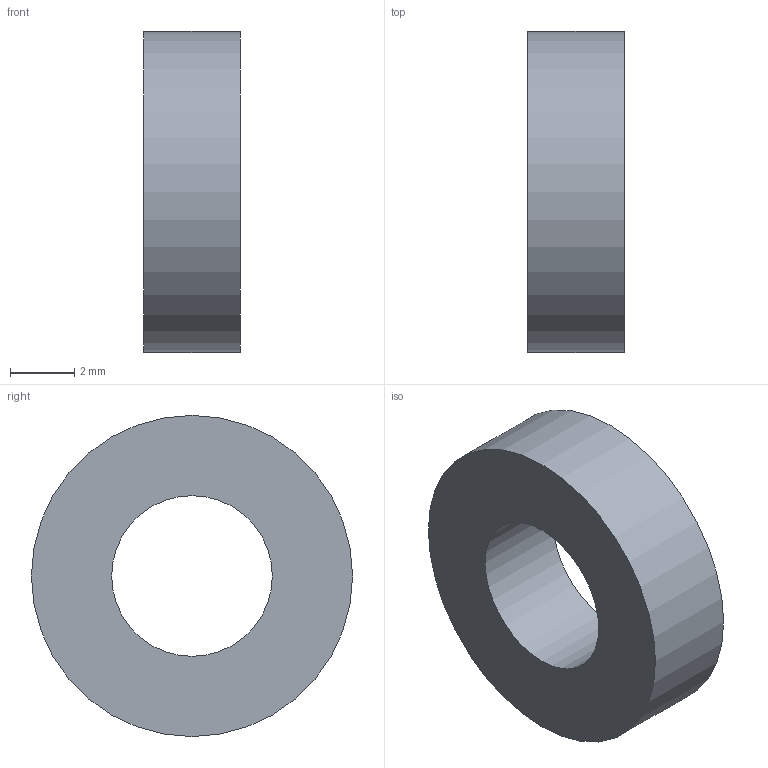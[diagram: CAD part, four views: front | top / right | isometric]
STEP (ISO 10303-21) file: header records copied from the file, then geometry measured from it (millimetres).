
FILE_DESCRIPTION(/* description */ ('STEP AP214'),/* implementation_level */ '2;1');
FILE_NAME(/* name */ 'Mounting Accessory GN 753.2-5-6-3-AO-NI',/* time_stamp */ '2024-12-09T13:59:58+01:00',/* author */ ('License CC BY-ND 4.0'),/* organization */ ('CADENAS'),/* preprocessor_version */ 'ST-DEVELOPER v19.3',/* originating_system */ 'PARTsolutions',/* authorisation */ ' ');
FILE_SCHEMA (('AUTOMOTIVE_DESIGN {1 0 10303 214 3 1 1}'));
Length unit declared in the file: millimetre
Products named in the file (1): Mounting Accessory GN 753.2-5-6-3-AO-NI
Bounding box: 3 x 10 x 10 mm (x, y, z)
Volume: 176.7 mm3; surface area: 259.2 mm2
Topology: 1 solids, 1 shells, 4 faces, 6 edges, 4 vertices
Faces by surface type: plane 2, cylinder 2
Full cylindrical faces by diameter (mm): 5 x1, 10 x1
Entity records: 118 total; most frequent: DIRECTION 18, CARTESIAN_POINT 13, AXIS2_PLACEMENT_3D 9, ORIENTED_EDGE 8, EDGE_LOOP 8, FACE_BOUND 8, EDGE_CURVE 4, VERTEX_POINT 4
